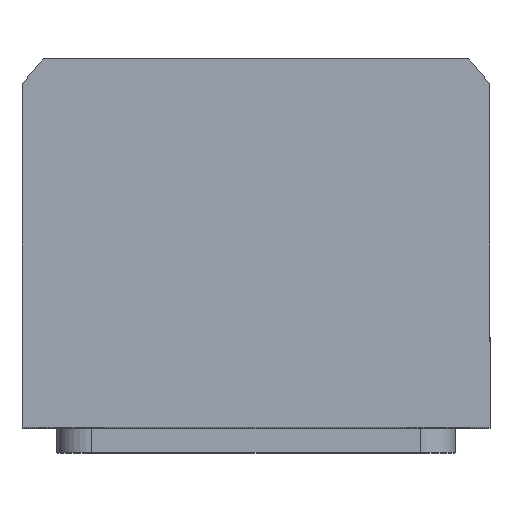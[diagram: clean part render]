
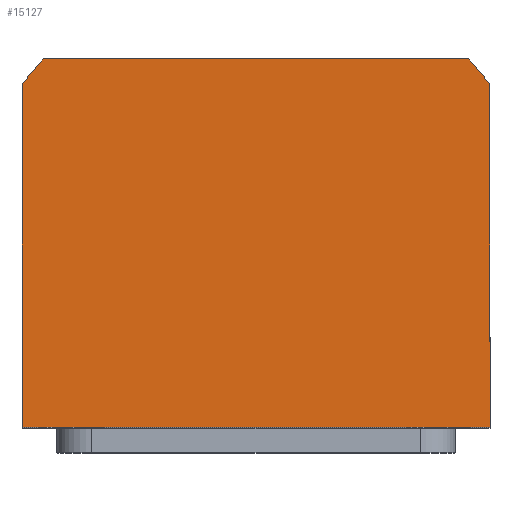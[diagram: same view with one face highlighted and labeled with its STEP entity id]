
A CAD part, top view. The second image highlights one B-rep face of the part: STEP entity #15127.
In plain terms, the highlighted planar face has unit normal (0, 0, 1).
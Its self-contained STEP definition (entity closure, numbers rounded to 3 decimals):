
#50 = ORIENTED_EDGE ( 'NONE', *, *, #11380, .T. ) ;
#474 = EDGE_LOOP ( 'NONE', ( #11993, #1882, #6866, #5297, #50, #13971 ) ) ;
#499 = CARTESIAN_POINT ( 'NONE',  ( 0., 0., 60. ) ) ;
#1646 = LINE ( 'NONE', #9026, #4393 ) ;
#1882 = ORIENTED_EDGE ( 'NONE', *, *, #14371, .T. ) ;
#2691 = CIRCLE ( 'NONE', #13014, 58.5 ) ;
#2968 = CARTESIAN_POINT ( 'NONE',  ( 47., 34.832, 60. ) ) ;
#3242 = LINE ( 'NONE', #7043, #11071 ) ;
#3367 = CARTESIAN_POINT ( 'NONE',  ( -42.688, 40., 60. ) ) ;
#3601 = PLANE ( 'NONE',  #15011 ) ;
#3730 = VERTEX_POINT ( 'NONE', #2968 ) ;
#4393 = VECTOR ( 'NONE', #11275, 1000. ) ;
#4723 = DIRECTION ( 'NONE',  ( 1., 0., 0. ) ) ;
#5057 = VERTEX_POINT ( 'NONE', #9843 ) ;
#5297 = ORIENTED_EDGE ( 'NONE', *, *, #11869, .T. ) ;
#5518 = FACE_OUTER_BOUND ( 'NONE', #474, .T. ) ;
#5575 = VERTEX_POINT ( 'NONE', #9809 ) ;
#5917 = DIRECTION ( 'NONE',  ( 1., 0., 0. ) ) ;
#6644 = AXIS2_PLACEMENT_3D ( 'NONE', #9714, #13318, #14283 ) ;
#6793 = VERTEX_POINT ( 'NONE', #8015 ) ;
#6866 = ORIENTED_EDGE ( 'NONE', *, *, #6986, .T. ) ;
#6986 = EDGE_CURVE ( 'NONE', #3730, #5575, #10243, .T. ) ;
#7043 = CARTESIAN_POINT ( 'NONE',  ( -47., -34., 60. ) ) ;
#7495 = LINE ( 'NONE', #9402, #11662 ) ;
#8015 = CARTESIAN_POINT ( 'NONE',  ( 47., -34., 60. ) ) ;
#8141 = DIRECTION ( 'NONE',  ( -1., 0., 0. ) ) ;
#8216 = CARTESIAN_POINT ( 'NONE',  ( 0., 0., 60. ) ) ;
#9026 = CARTESIAN_POINT ( 'NONE',  ( 47., 34.832, 60. ) ) ;
#9402 = CARTESIAN_POINT ( 'NONE',  ( 47., -34., 60. ) ) ;
#9714 = CARTESIAN_POINT ( 'NONE',  ( 0., 0., 60. ) ) ;
#9809 = CARTESIAN_POINT ( 'NONE',  ( 42.688, 40., 60. ) ) ;
#9843 = CARTESIAN_POINT ( 'NONE',  ( -47., -34., 60. ) ) ;
#10243 = CIRCLE ( 'NONE', #6644, 58.5 ) ;
#10288 = CARTESIAN_POINT ( 'NONE',  ( -47., 34.832, 60. ) ) ;
#10581 = DIRECTION ( 'NONE',  ( 0., -1., 0. ) ) ;
#10886 = LINE ( 'NONE', #15184, #14036 ) ;
#11071 = VECTOR ( 'NONE', #10581, 1000. ) ;
#11275 = DIRECTION ( 'NONE',  ( 0., 1., 0. ) ) ;
#11380 = EDGE_CURVE ( 'NONE', #14585, #14465, #2691, .T. ) ;
#11662 = VECTOR ( 'NONE', #4723, 1000. ) ;
#11804 = EDGE_CURVE ( 'NONE', #14465, #5057, #3242, .T. ) ;
#11869 = EDGE_CURVE ( 'NONE', #5575, #14585, #10886, .T. ) ;
#11993 = ORIENTED_EDGE ( 'NONE', *, *, #15119, .T. ) ;
#13014 = AXIS2_PLACEMENT_3D ( 'NONE', #499, #13345, #13182 ) ;
#13182 = DIRECTION ( 'NONE',  ( 1., 0., 0. ) ) ;
#13318 = DIRECTION ( 'NONE',  ( 0., 0., 1. ) ) ;
#13345 = DIRECTION ( 'NONE',  ( 0., 0., 1. ) ) ;
#13971 = ORIENTED_EDGE ( 'NONE', *, *, #11804, .T. ) ;
#14036 = VECTOR ( 'NONE', #8141, 1000. ) ;
#14092 = DIRECTION ( 'NONE',  ( 0., 0., 1. ) ) ;
#14283 = DIRECTION ( 'NONE',  ( 1., 0., 0. ) ) ;
#14371 = EDGE_CURVE ( 'NONE', #6793, #3730, #1646, .T. ) ;
#14465 = VERTEX_POINT ( 'NONE', #10288 ) ;
#14585 = VERTEX_POINT ( 'NONE', #3367 ) ;
#15011 = AXIS2_PLACEMENT_3D ( 'NONE', #8216, #14092, #5917 ) ;
#15119 = EDGE_CURVE ( 'NONE', #5057, #6793, #7495, .T. ) ;
#15127 = ADVANCED_FACE ( 'NONE', ( #5518 ), #3601, .T. ) ;
#15184 = CARTESIAN_POINT ( 'NONE',  ( -42.688, 40., 60. ) ) ;
